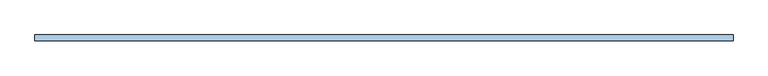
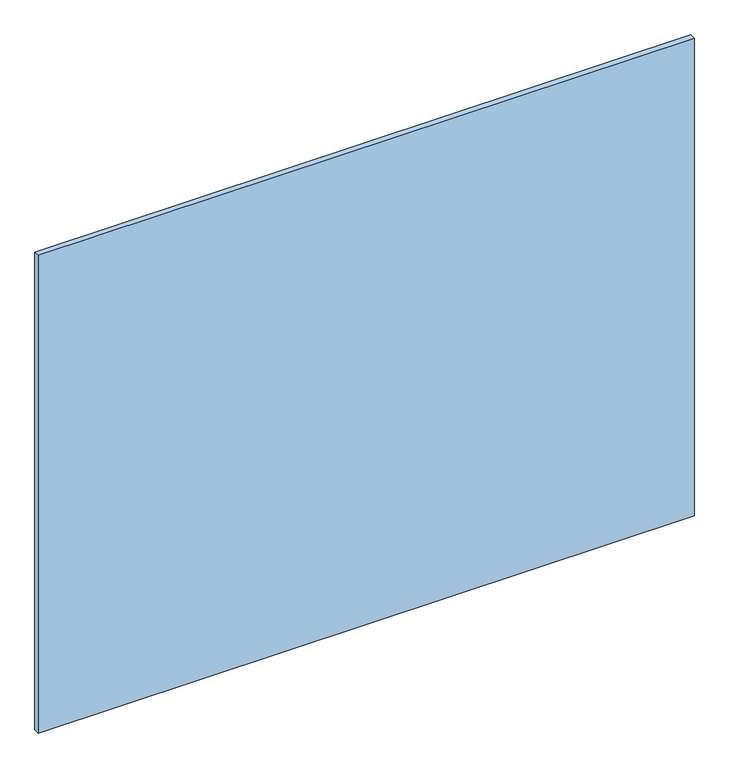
"""IFC4 building model written with IfcOpenShell, lengths in millimetres: window geometry, espejo biselado sin marco : ESP7-espejo biselado 130 x 100."""

from ifc_helpers import new_model, si_unit, origin, origin_with_axes, place, context, project, spatial, polyline, outline, extrude, source, transform, mapped, element, save


def window_d0941a12(model_context):
    return source(origin(), model_context, "Body", "SweptSolid", [
        extrude(outline(polyline([(-650.0, 19.0), (-650.0, 30.0), (650.0, 30.0), (650.0, 19.0), (-650.0, 19.0)])), origin_with_axes(), (0.0, 0.0, 1.0), 1000.0),
    ])


if __name__ == "__main__":
    model = new_model("IFC4")
    model_context = context("Model", 3, world=origin())
    ifc_project = project(units=[si_unit("LENGTHUNIT", "METRE", prefix="MILLI")], contexts=[model_context])
    site = spatial("IfcSite", under=ifc_project)
    building = spatial("IfcBuilding", under=site)
    placement = place(None, origin())
    window_shape = window_d0941a12(model_context)
    element("IfcWindow", 1, ObjectType="espejo biselado sin marco : ESP7-espejo biselado 130 x 100", at=placement, inside=building, context=model_context, shape_type="MappedRepresentation", body=[
        mapped(window_shape, transform((0.0, 0.0, 0.0), x_axis=(1.0, 0.0, 0.0), y_axis=(0.0, 1.0, 0.0), z_axis=(0.0, 0.0, 1.0))),
    ])
    save(model, "model.ifc")
